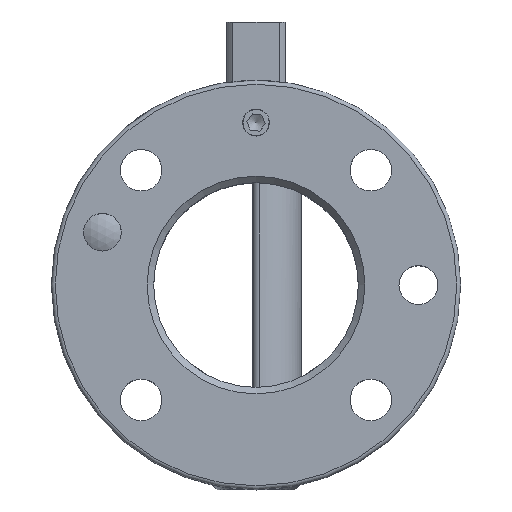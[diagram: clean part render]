
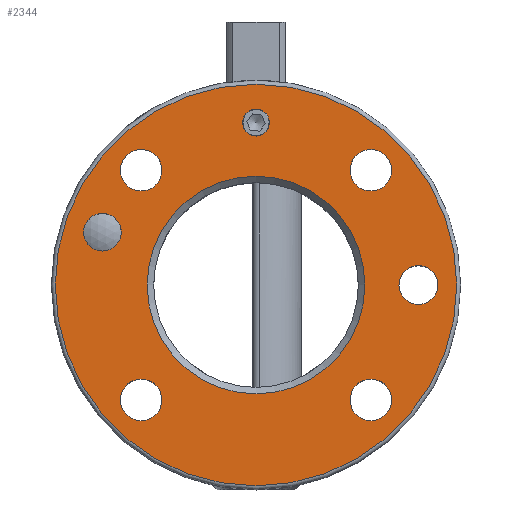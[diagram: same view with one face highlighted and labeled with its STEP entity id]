
A CAD part, top view. The second image highlights one B-rep face of the part: STEP entity #2344.
In plain terms, the highlighted planar face has unit normal (0, 0, 1).
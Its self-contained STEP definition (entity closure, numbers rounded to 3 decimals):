
#543=CARTESIAN_POINT('',(2.067,25.0,0.0));
#544=VERTEX_POINT('',#543);
#545=CARTESIAN_POINT('',(0.0,25.0,0.0));
#546=DIRECTION('',(0.0,0.0,-1.0));
#547=DIRECTION('',(1.0,0.0,0.0));
#548=AXIS2_PLACEMENT_3D('',#545,#546,#547);
#549=CIRCLE('',#548,2.067);
#550=EDGE_CURVE('',#544,#544,#549,.T.);
#2241=CARTESIAN_POINT('',(30.9,0.,0.0));
#2242=VERTEX_POINT('',#2241);
#2243=CARTESIAN_POINT('',(0.0,0.0,0.0));
#2244=DIRECTION('',(0.0,0.0,-1.0));
#2245=DIRECTION('',(-1.0,0.0,0.0));
#2246=AXIS2_PLACEMENT_3D('',#2243,#2244,#2245);
#2247=CIRCLE('',#2246,30.9);
#2248=EDGE_CURVE('',#2242,#2242,#2247,.T.);
#2256=CARTESIAN_POINT('',(0.0,0.0,0.0));
#2257=DIRECTION('',(0.0,0.0,-1.0));
#2258=DIRECTION('',(-1.0,0.0,0.0));
#2259=AXIS2_PLACEMENT_3D('',#2256,#2257,#2258);
#2260=PLANE('',#2259);
#2261=ORIENTED_EDGE('',*,*,#2248,.F.);
#2262=EDGE_LOOP('',(#2261));
#2263=FACE_OUTER_BOUND('',#2262,.T.);
#2264=CARTESIAN_POINT('',(16.75,0.,0.0));
#2265=VERTEX_POINT('',#2264);
#2266=CARTESIAN_POINT('',(0.0,0.0,0.0));
#2267=DIRECTION('',(0.0,0.0,1.0));
#2268=DIRECTION('',(-1.0,0.0,0.0));
#2269=AXIS2_PLACEMENT_3D('',#2266,#2267,#2268);
#2270=CIRCLE('',#2269,16.75);
#2271=EDGE_CURVE('',#2265,#2265,#2270,.T.);
#2272=ORIENTED_EDGE('',*,*,#2271,.F.);
#2273=EDGE_LOOP('',(#2272));
#2274=FACE_BOUND('',#2273,.T.);
#2275=CARTESIAN_POINT('',(28.0,0.0,0.0));
#2276=VERTEX_POINT('',#2275);
#2277=CARTESIAN_POINT('',(25.0,0.0,0.0));
#2278=DIRECTION('',(0.0,0.0,-1.0));
#2279=DIRECTION('',(1.0,0.0,0.0));
#2280=AXIS2_PLACEMENT_3D('',#2277,#2278,#2279);
#2281=CIRCLE('',#2280,3.);
#2282=EDGE_CURVE('',#2276,#2276,#2281,.T.);
#2283=ORIENTED_EDGE('',*,*,#2282,.T.);
#2284=EDGE_LOOP('',(#2283));
#2285=FACE_BOUND('',#2284,.T.);
#2286=ORIENTED_EDGE('',*,*,#550,.T.);
#2287=EDGE_LOOP('',(#2286));
#2288=FACE_BOUND('',#2287,.T.);
#2289=CARTESIAN_POINT('',(20.878,-17.678,0.0));
#2290=VERTEX_POINT('',#2289);
#2291=CARTESIAN_POINT('',(17.678,-17.678,0.0));
#2292=DIRECTION('',(0.0,0.0,-1.0));
#2293=DIRECTION('',(-1.0,0.0,0.0));
#2294=AXIS2_PLACEMENT_3D('',#2291,#2292,#2293);
#2295=CIRCLE('',#2294,3.2);
#2296=EDGE_CURVE('',#2290,#2290,#2295,.T.);
#2297=ORIENTED_EDGE('',*,*,#2296,.T.);
#2298=EDGE_LOOP('',(#2297));
#2299=FACE_BOUND('',#2298,.T.);
#2300=CARTESIAN_POINT('',(20.878,17.678,0.0));
#2301=VERTEX_POINT('',#2300);
#2302=CARTESIAN_POINT('',(17.678,17.678,0.0));
#2303=DIRECTION('',(0.0,0.0,-1.0));
#2304=DIRECTION('',(-1.0,0.0,0.0));
#2305=AXIS2_PLACEMENT_3D('',#2302,#2303,#2304);
#2306=CIRCLE('',#2305,3.2);
#2307=EDGE_CURVE('',#2301,#2301,#2306,.T.);
#2308=ORIENTED_EDGE('',*,*,#2307,.T.);
#2309=EDGE_LOOP('',(#2308));
#2310=FACE_BOUND('',#2309,.T.);
#2311=CARTESIAN_POINT('',(-14.478,17.678,0.0));
#2312=VERTEX_POINT('',#2311);
#2313=CARTESIAN_POINT('',(-17.678,17.678,0.0));
#2314=DIRECTION('',(0.0,0.0,-1.0));
#2315=DIRECTION('',(-1.0,0.0,0.0));
#2316=AXIS2_PLACEMENT_3D('',#2313,#2314,#2315);
#2317=CIRCLE('',#2316,3.2);
#2318=EDGE_CURVE('',#2312,#2312,#2317,.T.);
#2319=ORIENTED_EDGE('',*,*,#2318,.T.);
#2320=EDGE_LOOP('',(#2319));
#2321=FACE_BOUND('',#2320,.T.);
#2322=CARTESIAN_POINT('',(-14.478,-17.678,0.0));
#2323=VERTEX_POINT('',#2322);
#2324=CARTESIAN_POINT('',(-17.678,-17.678,0.0));
#2325=DIRECTION('',(0.0,0.0,-1.0));
#2326=DIRECTION('',(-1.0,0.0,0.0));
#2327=AXIS2_PLACEMENT_3D('',#2324,#2325,#2326);
#2328=CIRCLE('',#2327,3.2);
#2329=EDGE_CURVE('',#2323,#2323,#2328,.T.);
#2330=ORIENTED_EDGE('',*,*,#2329,.T.);
#2331=EDGE_LOOP('',(#2330));
#2332=FACE_BOUND('',#2331,.T.);
#2333=CARTESIAN_POINT('',(-20.738,8.139,0.0));
#2334=VERTEX_POINT('',#2333);
#2335=CARTESIAN_POINT('',(-23.638,8.139,0.0));
#2336=DIRECTION('',(0.0,0.0,-1.0));
#2337=DIRECTION('',(-1.0,0.0,0.0));
#2338=AXIS2_PLACEMENT_3D('',#2335,#2336,#2337);
#2339=CIRCLE('',#2338,2.9);
#2340=EDGE_CURVE('',#2334,#2334,#2339,.T.);
#2341=ORIENTED_EDGE('',*,*,#2340,.T.);
#2342=EDGE_LOOP('',(#2341));
#2343=FACE_BOUND('',#2342,.T.);
#2344=ADVANCED_FACE('',(#2263,#2274,#2285,#2288,#2299,#2310,#2321,#2332,#2343),#2260,.F.);
